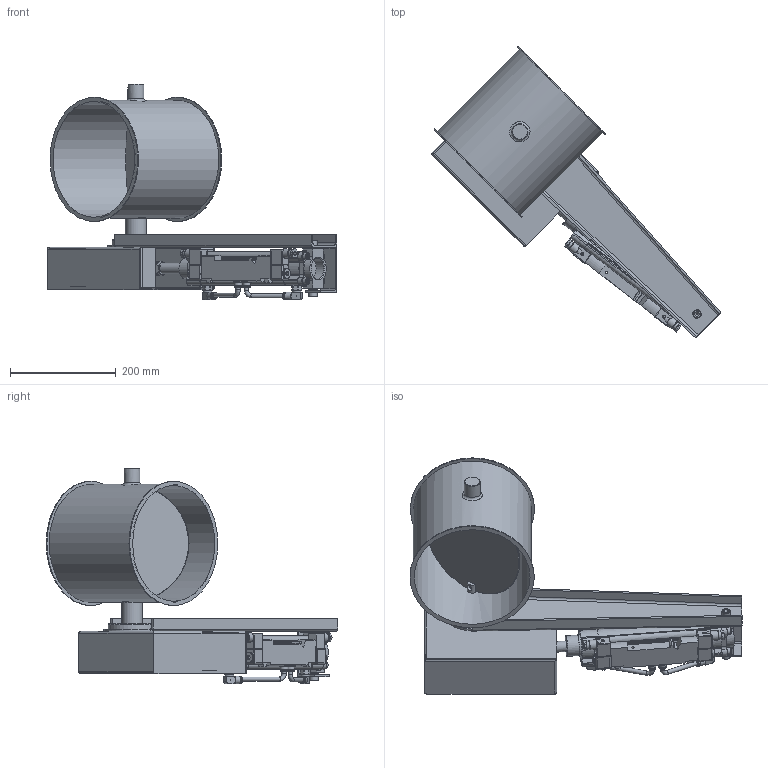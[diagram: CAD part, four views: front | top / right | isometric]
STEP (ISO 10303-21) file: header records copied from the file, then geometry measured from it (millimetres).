
FILE_DESCRIPTION((''),'2;1');
FILE_NAME('U:\Wolfgang\Marcel-3D\fertig\Kapitel 8\2221211.stp','2012-01-13T11:11:34',('iwienholt'),(''),'Autodesk Inventor 2010','Autodesk Inventor 2010','');
FILE_SCHEMA(('AUTOMOTIVE_DESIGN { 1 0 10303 214 1 1 1 1 }'));
Length unit declared in the file: millimetre
Products named in the file (33): 2221211; BuchseD20 90-50; Bolzen D20; Scheibe224b; F1 Zylindereinheit d20; 4527_MSFG_24_42_50_60_6_0; 4527_MSFG_24_42_50_60_6_01; 4527_MSFG_24_42_50_60_6_02; 537600_VUVB_S_B42_ZD_Q8_3AC1_6_0; 537600_VUVB_S_B42_ZD_Q8_3AC1_6_01; 537600_VUVB_S_B42_ZD_Q8_3AC1_6_02; 537600_VUVB_S_B42_ZD_Q8_3AC1_6_03; 153414_QSRL_1_4_8_6_0; schlauch; Schutzkasten; Kasten-a; Kasten-b; 532756_DNCB_50_160_PPV_A_6_0; 532756_DNCB_50_160_PPV_A_6_01; 532756_DNCB_50_160_PPV_A_6_02; 6146_SG_M16x15_6_0; 6146_SG_M16x15_6_01; 6146_SG_M16x15_6_02; 174413_ZNCF_50_6_0; 174413_ZNCF_50_6_01; 174413_ZNCF_50_6_02; 174413_ZNCF_50_6_03; 174413_ZNCF_50_6_04; 174413_ZNCF_50_6_05; 0021088 d20; Strebe d20; Bolzen20; 2221211-1
Assembly tree (36 placements, depth 4):
  2221211
    BuchseD20 90-50
    Bolzen D20  x2
    Scheibe224b
    F1 Zylindereinheit d20
      4527_MSFG_24_42_50_60_6_0  x2
        4527_MSFG_24_42_50_60_6_01
        4527_MSFG_24_42_50_60_6_02
      537600_VUVB_S_B42_ZD_Q8_3AC1_6_0
        537600_VUVB_S_B42_ZD_Q8_3AC1_6_01
        537600_VUVB_S_B42_ZD_Q8_3AC1_6_02
        537600_VUVB_S_B42_ZD_Q8_3AC1_6_03
      153414_QSRL_1_4_8_6_0  x2
      schlauch  x2
      Schutzkasten
        Kasten-a
        Kasten-b
      532756_DNCB_50_160_PPV_A_6_0
        532756_DNCB_50_160_PPV_A_6_01
        532756_DNCB_50_160_PPV_A_6_02
      6146_SG_M16x15_6_0
        6146_SG_M16x15_6_01
        6146_SG_M16x15_6_02
      174413_ZNCF_50_6_0
        174413_ZNCF_50_6_01
        174413_ZNCF_50_6_02
        174413_ZNCF_50_6_03
        174413_ZNCF_50_6_04
        174413_ZNCF_50_6_05
      0021088 d20
      Strebe d20
      Bolzen20
    2221211-1
Bounding box: 548.01 x 551.55 x 407.27 mm (x, y, z)
Volume: 2219926.4 mm3; surface area: 1146346.2 mm2
Topology: 30 solids, 30 shells, 2510 faces, 6747 edges, 4410 vertices
Faces by surface type: plane 1899, cylinder 426, cone 146, bspline 27, torus 10, sphere 2
Full cylindrical faces by diameter (mm): 1 x6, 2.459 x2, 3 x4, 3.5 x2, 4 x2, 4.5 x1, 5 x4, 5.471 x2, 5.5 x2, 6 x16, 6.647 x8, 7.188 x2, 8 x22, 8.05 x2, 9 x6, 9.6 x2, 10 x2, 10.15 x2, 11.445 x2, 12 x2, 13 x4, 13.05 x2, 13.157 x2, 13.346 x1, 14 x6, 14.376 x2, 14.4 x4, 14.5 x2, 14.7 x6, 15.1 x2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
Entity records: 72229 total; most frequent: CARTESIAN_POINT 13851, ORIENTED_EDGE 11682, DIRECTION 11212, EDGE_CURVE 5841, VECTOR 4782, LINE 4782, VERTEX_POINT 3959, EDGE_LOOP 3242
